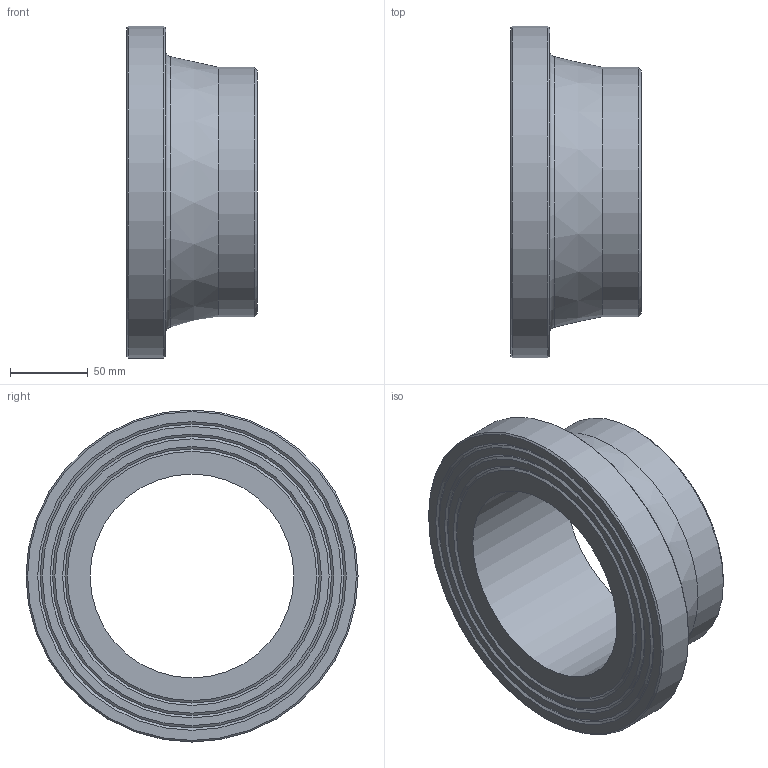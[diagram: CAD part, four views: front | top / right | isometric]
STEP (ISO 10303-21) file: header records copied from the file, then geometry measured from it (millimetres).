
FILE_DESCRIPTION(/* description */ ('Unknown'),/* implementation_level */ '2;1');
FILE_NAME(/* name */ 'CCP160C',/* time_stamp */ '2022-04-04T14:53:08+02:00',/* author */ ('Unknown'),/* organization */ ('Unknown'),/* preprocessor_version */ 'ST-DEVELOPER v18.1',/* originating_system */ 'Solid Edge',/* authorisation */ 'Unknown');
FILE_SCHEMA (('AUTOMOTIVE_DESIGN {1 0 10303 214 3 1 1}'));
Length unit declared in the file: millimetre
Products named in the file (1): CCP160C
Bounding box: 84 x 213 x 213 mm (x, y, z)
Volume: 1011132 mm3; surface area: 121861.3 mm2
Topology: 1 solids, 1 shells, 20 faces, 35 edges, 21 vertices
Faces by surface type: cone 10, plane 6, cylinder 3, torus 1
Full cylindrical faces by diameter (mm): 130.8 x1, 160 x1, 213 x1
Entity records: 438 total; most frequent: DIRECTION 82, CARTESIAN_POINT 61, AXIS2_PLACEMENT_3D 41, ORIENTED_EDGE 40, EDGE_LOOP 40, FACE_BOUND 40, EDGE_CURVE 20, VERTEX_POINT 20
